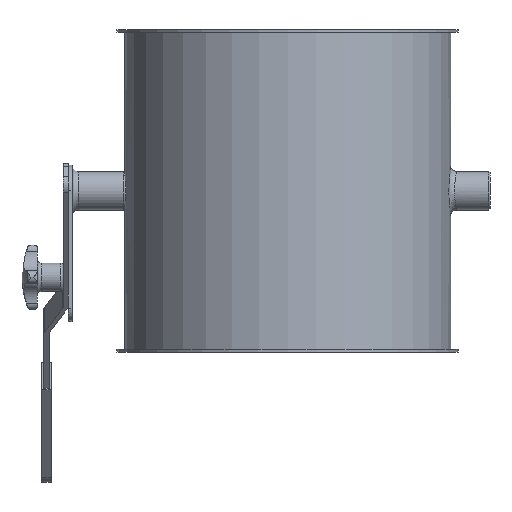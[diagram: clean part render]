
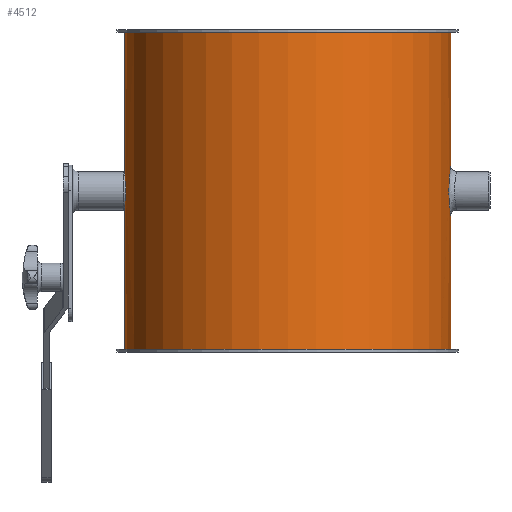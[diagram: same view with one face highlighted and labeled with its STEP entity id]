
A CAD part, front view. The second image highlights one B-rep face of the part: STEP entity #4512.
In plain terms, the highlighted cylindrical face has radius 126.5 mm (diameter 253 mm), a full revolution.
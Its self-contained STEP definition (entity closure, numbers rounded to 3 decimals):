
#4385=CARTESIAN_POINT('',(125.091,18.83,125.0));
#4386=VERTEX_POINT('',#4385);
#4396=CARTESIAN_POINT('',(125.091,18.83,125.));
#4397=CARTESIAN_POINT('',(125.091,18.83,125.));
#4398=CARTESIAN_POINT('',(125.091,18.83,125.));
#4399=CARTESIAN_POINT('',(125.091,18.83,125.));
#4400=CARTESIAN_POINT('',(125.091,18.83,125.726));
#4401=CARTESIAN_POINT('',(125.114,18.672,128.642));
#4402=CARTESIAN_POINT('',(125.349,17.107,134.302));
#4403=CARTESIAN_POINT('',(125.975,12.167,140.749));
#4404=CARTESIAN_POINT('',(126.474,5.018,144.324));
#4405=CARTESIAN_POINT('',(126.523,-0.693,144.664));
#4406=CARTESIAN_POINT('',(126.385,-6.271,143.692));
#4407=CARTESIAN_POINT('',(125.982,-12.122,140.775));
#4408=CARTESIAN_POINT('',(125.213,-18.143,133.004));
#4409=CARTESIAN_POINT('',(124.989,-19.473,123.951));
#4410=CARTESIAN_POINT('',(125.417,-16.664,114.523));
#4411=CARTESIAN_POINT('',(126.067,-11.348,108.586));
#4412=CARTESIAN_POINT('',(126.522,-3.383,105.344));
#4413=CARTESIAN_POINT('',(126.522,4.329,105.336));
#4414=CARTESIAN_POINT('',(125.976,12.147,109.235));
#4415=CARTESIAN_POINT('',(125.41,16.638,115.078));
#4416=CARTESIAN_POINT('',(125.14,18.509,120.608));
#4417=CARTESIAN_POINT('',(125.091,18.831,123.548));
#4418=CARTESIAN_POINT('',(125.091,18.83,125.));
#4419=B_SPLINE_CURVE_WITH_KNOTS('',3,(#4396,#4397,#4398,#4399,#4400,#4401,#4402,#4403,#4404,#4405,#4406,#4407,#4408,#4409,#4410,#4411,#4412,#4413,#4414,#4415,#4416,#4417,#4418),.UNSPECIFIED.,.T.,.U.,(4,3,1,1,1,1,1,1,1,1,1,1,1,1,1,1,1,1,4),(-9.05,-9.05,-8.888,-8.403,-7.757,-7.11,-6.626,-6.464,-5.818,-5.171,-4.309,-3.878,-3.017,-2.586,-1.939,-1.293,-0.646,-0.323,0.),.UNSPECIFIED.);
#4420=EDGE_CURVE('',#4386,#4386,#4419,.T.);
#4425=CARTESIAN_POINT('',(0.0,0.0,0.0));
#4426=DIRECTION('',(0.0,0.0,1.0));
#4427=DIRECTION('',(-1.0,0.0,0.0));
#4428=AXIS2_PLACEMENT_3D('',#4425,#4426,#4427);
#4429=CYLINDRICAL_SURFACE('',#4428,126.5);
#4430=CARTESIAN_POINT('',(126.5,0.,248.0));
#4431=VERTEX_POINT('',#4430);
#4432=CARTESIAN_POINT('',(0.0,0.0,248.0));
#4433=DIRECTION('',(0.0,0.0,-1.0));
#4434=DIRECTION('',(-1.0,0.0,0.0));
#4435=AXIS2_PLACEMENT_3D('',#4432,#4433,#4434);
#4436=CIRCLE('',#4435,126.5);
#4437=EDGE_CURVE('',#4431,#4431,#4436,.T.);
#4438=ORIENTED_EDGE('',*,*,#4437,.T.);
#4439=EDGE_LOOP('',(#4438));
#4440=FACE_OUTER_BOUND('',#4439,.T.);
#4441=CARTESIAN_POINT('',(-126.5,0.,2.0));
#4442=VERTEX_POINT('',#4441);
#4443=CARTESIAN_POINT('',(0.0,0.0,2.0));
#4444=DIRECTION('',(0.0,0.0,1.0));
#4445=DIRECTION('',(-1.0,0.0,0.0));
#4446=AXIS2_PLACEMENT_3D('',#4443,#4444,#4445);
#4447=CIRCLE('',#4446,126.5);
#4448=EDGE_CURVE('',#4442,#4442,#4447,.T.);
#4449=ORIENTED_EDGE('',*,*,#4448,.T.);
#4450=EDGE_LOOP('',(#4449));
#4451=FACE_BOUND('',#4450,.T.);
#4452=CARTESIAN_POINT('',(-125.608,15.0,125.));
#4453=VERTEX_POINT('',#4452);
#4454=CARTESIAN_POINT('',(-125.608,15.0,125.));
#4455=CARTESIAN_POINT('',(-125.608,15.0,125.943));
#4456=CARTESIAN_POINT('',(-125.618,14.91,126.917));
#4457=CARTESIAN_POINT('',(-125.663,14.53,128.855));
#4458=CARTESIAN_POINT('',(-125.697,14.24,129.819));
#4459=CARTESIAN_POINT('',(-125.823,13.091,132.59));
#4460=CARTESIAN_POINT('',(-125.943,11.937,134.276));
#4461=CARTESIAN_POINT('',(-126.167,9.276,136.937));
#4462=CARTESIAN_POINT('',(-126.286,7.59,138.091));
#4463=CARTESIAN_POINT('',(-126.412,4.819,139.24));
#4464=CARTESIAN_POINT('',(-126.445,3.855,139.53));
#4465=CARTESIAN_POINT('',(-126.489,1.917,139.91));
#4466=CARTESIAN_POINT('',(-126.5,0.943,140.));
#4467=CARTESIAN_POINT('',(-126.5,-0.943,140.));
#4468=CARTESIAN_POINT('',(-126.489,-1.917,139.91));
#4469=CARTESIAN_POINT('',(-126.445,-3.855,139.53));
#4470=CARTESIAN_POINT('',(-126.412,-4.819,139.24));
#4471=CARTESIAN_POINT('',(-126.286,-7.59,138.091));
#4472=CARTESIAN_POINT('',(-126.167,-9.276,136.937));
#4473=CARTESIAN_POINT('',(-125.943,-11.937,134.276));
#4474=CARTESIAN_POINT('',(-125.823,-13.091,132.59));
#4475=CARTESIAN_POINT('',(-125.697,-14.24,129.819));
#4476=CARTESIAN_POINT('',(-125.663,-14.53,128.855));
#4477=CARTESIAN_POINT('',(-125.618,-14.91,126.917));
#4478=CARTESIAN_POINT('',(-125.608,-15.0,125.943));
#4479=CARTESIAN_POINT('',(-125.608,-15.0,124.057));
#4480=CARTESIAN_POINT('',(-125.618,-14.91,123.083));
#4481=CARTESIAN_POINT('',(-125.663,-14.53,121.145));
#4482=CARTESIAN_POINT('',(-125.697,-14.24,120.181));
#4483=CARTESIAN_POINT('',(-125.823,-13.091,117.41));
#4484=CARTESIAN_POINT('',(-125.943,-11.937,115.724));
#4485=CARTESIAN_POINT('',(-126.167,-9.276,113.063));
#4486=CARTESIAN_POINT('',(-126.286,-7.59,111.909));
#4487=CARTESIAN_POINT('',(-126.412,-4.819,110.76));
#4488=CARTESIAN_POINT('',(-126.445,-3.855,110.47));
#4489=CARTESIAN_POINT('',(-126.489,-1.917,110.09));
#4490=CARTESIAN_POINT('',(-126.5,-0.943,110.0));
#4491=CARTESIAN_POINT('',(-126.5,0.943,110.0));
#4492=CARTESIAN_POINT('',(-126.489,1.917,110.09));
#4493=CARTESIAN_POINT('',(-126.445,3.855,110.47));
#4494=CARTESIAN_POINT('',(-126.412,4.819,110.76));
#4495=CARTESIAN_POINT('',(-126.286,7.59,111.909));
#4496=CARTESIAN_POINT('',(-126.167,9.276,113.063));
#4497=CARTESIAN_POINT('',(-125.943,11.937,115.724));
#4498=CARTESIAN_POINT('',(-125.823,13.091,117.41));
#4499=CARTESIAN_POINT('',(-125.697,14.24,120.181));
#4500=CARTESIAN_POINT('',(-125.663,14.53,121.145));
#4501=CARTESIAN_POINT('',(-125.618,14.91,123.083));
#4502=CARTESIAN_POINT('',(-125.608,15.0,124.057));
#4503=CARTESIAN_POINT('',(-125.608,15.0,125.));
#4504=B_SPLINE_CURVE_WITH_KNOTS('',3,(#4454,#4455,#4456,#4457,#4458,#4459,#4460,#4461,#4462,#4463,#4464,#4465,#4466,#4467,#4468,#4469,#4470,#4471,#4472,#4473,#4474,#4475,#4476,#4477,#4478,#4479,#4480,#4481,#4482,#4483,#4484,#4485,#4486,#4487,#4488,#4489,#4490,#4491,#4492,#4493,#4494,#4495,#4496,#4497,#4498,#4499,#4500,#4501,#4502,#4503),.UNSPECIFIED.,.T.,.U.,(4,2,2,2,2,2,2,2,2,2,2,2,2,2,2,2,2,2,2,2,2,2,2,2,4),(0.0,0.283,0.566,1.131,1.697,1.98,2.262,2.545,2.828,3.394,3.959,4.242,4.525,4.808,5.09,5.656,6.222,6.504,6.787,7.07,7.353,7.918,8.484,8.767,9.05),.UNSPECIFIED.);
#4505=EDGE_CURVE('',#4453,#4453,#4504,.T.);
#4506=ORIENTED_EDGE('',*,*,#4505,.T.);
#4507=EDGE_LOOP('',(#4506));
#4508=FACE_BOUND('',#4507,.T.);
#4509=ORIENTED_EDGE('',*,*,#4420,.F.);
#4510=EDGE_LOOP('',(#4509));
#4511=FACE_BOUND('',#4510,.T.);
#4512=ADVANCED_FACE('',(#4440,#4451,#4508,#4511),#4429,.T.);
